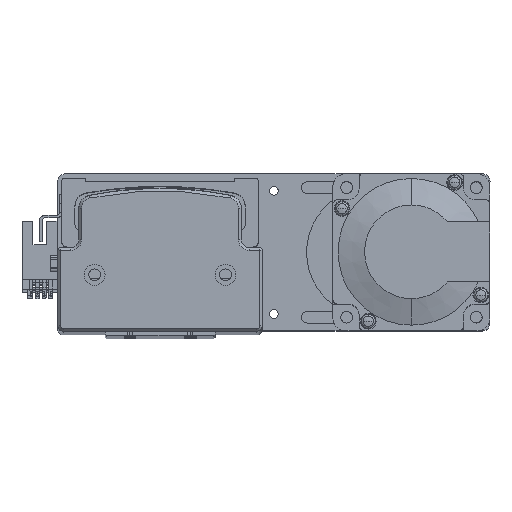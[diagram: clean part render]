
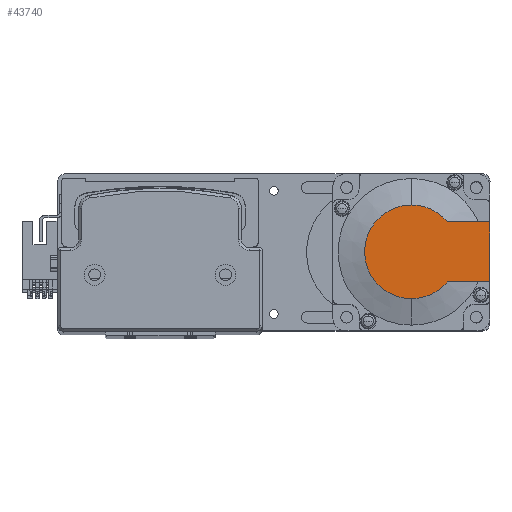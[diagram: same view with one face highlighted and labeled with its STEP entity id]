
A CAD part, top view. The second image highlights one B-rep face of the part: STEP entity #43740.
In plain terms, the highlighted planar face has unit normal (0, 0, 1) as drawn and (-1, 0, 0) by its records, which use the part's own axes.
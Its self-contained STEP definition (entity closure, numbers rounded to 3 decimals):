
#738 = CARTESIAN_POINT ( 'NONE',  ( -118.5, 0., 0. ) ) ;
#950 = CIRCLE ( 'NONE', #4046, 17.881 ) ;
#1943 = CARTESIAN_POINT ( 'NONE',  ( -118.5, 30., 25. ) ) ;
#4046 = AXIS2_PLACEMENT_3D ( 'NONE', #738, #28040, #4643 ) ;
#4475 = VERTEX_POINT ( 'NONE', #29244 ) ;
#4643 = DIRECTION ( 'NONE',  ( 0., 0., -1. ) ) ;
#5279 = EDGE_CURVE ( 'NONE', #7817, #4475, #950, .T. ) ;
#5621 = EDGE_CURVE ( 'NONE', #13658, #20905, #13184, .T. ) ;
#7817 = VERTEX_POINT ( 'NONE', #30317 ) ;
#9366 = CIRCLE ( 'NONE', #50553, 17.881 ) ;
#10185 = ORIENTED_EDGE ( 'NONE', *, *, #5279, .T. ) ;
#10583 = CARTESIAN_POINT ( 'NONE',  ( -118.5, -8.941, -11.45 ) ) ;
#10597 = ORIENTED_EDGE ( 'NONE', *, *, #32653, .T. ) ;
#11943 = VECTOR ( 'NONE', #45835, 1000. ) ;
#12298 = DIRECTION ( 'NONE',  ( -1., 0., 0. ) ) ;
#12752 = CARTESIAN_POINT ( 'NONE',  ( -118.5, 0., 11.45 ) ) ;
#13184 = LINE ( 'NONE', #10583, #11943 ) ;
#13658 = VERTEX_POINT ( 'NONE', #13742 ) ;
#13742 = CARTESIAN_POINT ( 'NONE',  ( -118.5, 30., -11.45 ) ) ;
#16657 = CARTESIAN_POINT ( 'NONE',  ( -118.5, 0., 0. ) ) ;
#17744 = AXIS2_PLACEMENT_3D ( 'NONE', #35694, #12298, #39648 ) ;
#17753 = CARTESIAN_POINT ( 'NONE',  ( -118.5, 30., 11.45 ) ) ;
#18507 = ORIENTED_EDGE ( 'NONE', *, *, #35091, .T. ) ;
#18887 = CARTESIAN_POINT ( 'NONE',  ( -118.5, 0., -17.881 ) ) ;
#20302 = AXIS2_PLACEMENT_3D ( 'NONE', #16657, #44044, #20602 ) ;
#20602 = DIRECTION ( 'NONE',  ( 0., 0., -1. ) ) ;
#20905 = VERTEX_POINT ( 'NONE', #48975 ) ;
#22473 = CARTESIAN_POINT ( 'NONE',  ( -118.5, 0., 0. ) ) ;
#24160 = EDGE_LOOP ( 'NONE', ( #36298, #18507, #10597, #10185, #44764, #48411 ) ) ;
#25309 = DIRECTION ( 'NONE',  ( 0., 0., 1. ) ) ;
#26345 = DIRECTION ( 'NONE',  ( 0., 0., -1. ) ) ;
#28040 = DIRECTION ( 'NONE',  ( -1., 0., 0. ) ) ;
#29244 = CARTESIAN_POINT ( 'NONE',  ( -118.5, 13.735, 11.45 ) ) ;
#29755 = LINE ( 'NONE', #12752, #38942 ) ;
#30168 = CIRCLE ( 'NONE', #20302, 17.881 ) ;
#30317 = CARTESIAN_POINT ( 'NONE',  ( -118.5, 0., 17.881 ) ) ;
#32653 = EDGE_CURVE ( 'NONE', #40662, #7817, #9366, .T. ) ;
#35091 = EDGE_CURVE ( 'NONE', #20905, #40662, #30168, .T. ) ;
#35352 = PLANE ( 'NONE',  #17744 ) ;
#35694 = CARTESIAN_POINT ( 'NONE',  ( -118.5, -8.941, 0. ) ) ;
#35984 = DIRECTION ( 'NONE',  ( 0., -1., 0. ) ) ;
#36298 = ORIENTED_EDGE ( 'NONE', *, *, #5621, .T. ) ;
#37072 = LINE ( 'NONE', #1943, #47525 ) ;
#38188 = VERTEX_POINT ( 'NONE', #17753 ) ;
#38942 = VECTOR ( 'NONE', #35984, 1000. ) ;
#39648 = DIRECTION ( 'NONE',  ( 0., 0., 1. ) ) ;
#40662 = VERTEX_POINT ( 'NONE', #18887 ) ;
#41081 = EDGE_CURVE ( 'NONE', #13658, #38188, #37072, .T. ) ;
#41162 = FACE_OUTER_BOUND ( 'NONE', #24160, .T. ) ;
#43740 = ADVANCED_FACE ( 'NONE', ( #41162 ), #35352, .T. ) ;
#44044 = DIRECTION ( 'NONE',  ( -1., 0., 0. ) ) ;
#44764 = ORIENTED_EDGE ( 'NONE', *, *, #46138, .F. ) ;
#45835 = DIRECTION ( 'NONE',  ( 0., -1., 0. ) ) ;
#46138 = EDGE_CURVE ( 'NONE', #38188, #4475, #29755, .T. ) ;
#47525 = VECTOR ( 'NONE', #25309, 1000. ) ;
#48411 = ORIENTED_EDGE ( 'NONE', *, *, #41081, .F. ) ;
#48975 = CARTESIAN_POINT ( 'NONE',  ( -118.5, 13.735, -11.45 ) ) ;
#49840 = DIRECTION ( 'NONE',  ( -1., 0., 0. ) ) ;
#50553 = AXIS2_PLACEMENT_3D ( 'NONE', #22473, #49840, #26345 ) ;
